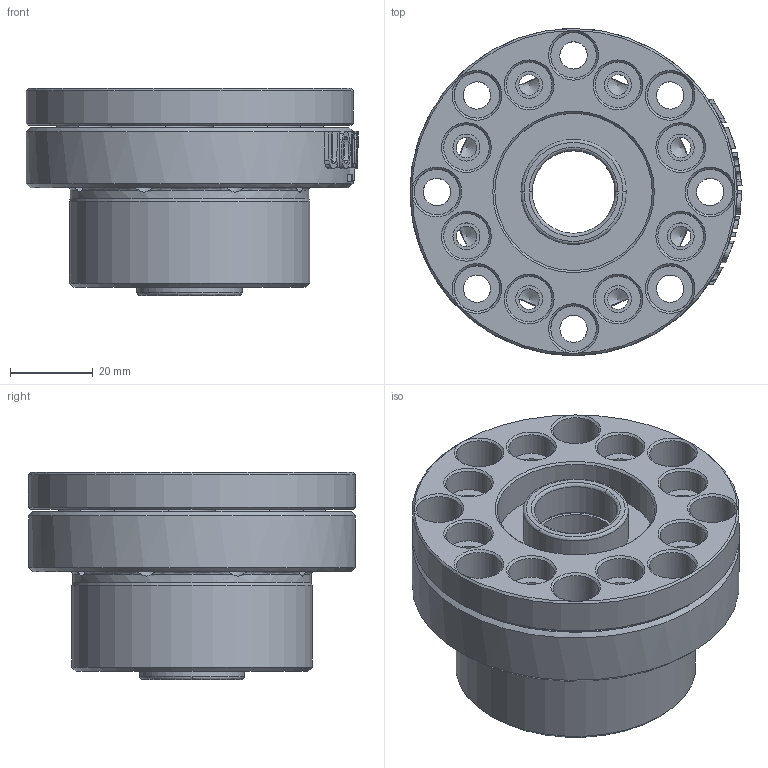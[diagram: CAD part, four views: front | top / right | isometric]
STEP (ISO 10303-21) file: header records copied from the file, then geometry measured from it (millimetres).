
FILE_DESCRIPTION(/* description */ (''),/* implementation_level */ '2;1');
FILE_NAME(/* name */ 'MBK20DF.stp',/* time_stamp */ '2016-10-26T18:44:17+08:00',/* author */ (''),/* organization */ (''),/* preprocessor_version */ 'ST-DEVELOPER v15',/* originating_system */ 'SIEMENS PLM Software NX 8.5',/* authorisation */ '');
FILE_SCHEMA (('CONFIG_CONTROL_DESIGN'));
Length unit declared in the file: millimetre
Products named in the file (1): MBK20DF
Bounding box: 80.18 x 79 x 50 mm (x, y, z)
Volume: 137268.5 mm3; surface area: 36429.2 mm2
Topology: 1 solids, 3 shells, 309 faces, 862 edges, 543 vertices
Faces by surface type: plane 116, cone 69, cylinder 66, extrusion 41, bspline 17
Full cylindrical faces by diameter (mm): 5 x8, 6.5 x8, 6.6 x8, 11 x24, 20 x3, 25.4 x3, 38 x1, 47 x1, 57.6 x1, 58 x1, 79 x2
Entity records: 10448 total; most frequent: CARTESIAN_POINT 3473, ORIENTED_EDGE 1408, DIRECTION 1320, EDGE_CURVE 704, AXIS2_PLACEMENT_3D 583, VERTEX_POINT 490, EDGE_LOOP 444, CIRCLE 326
